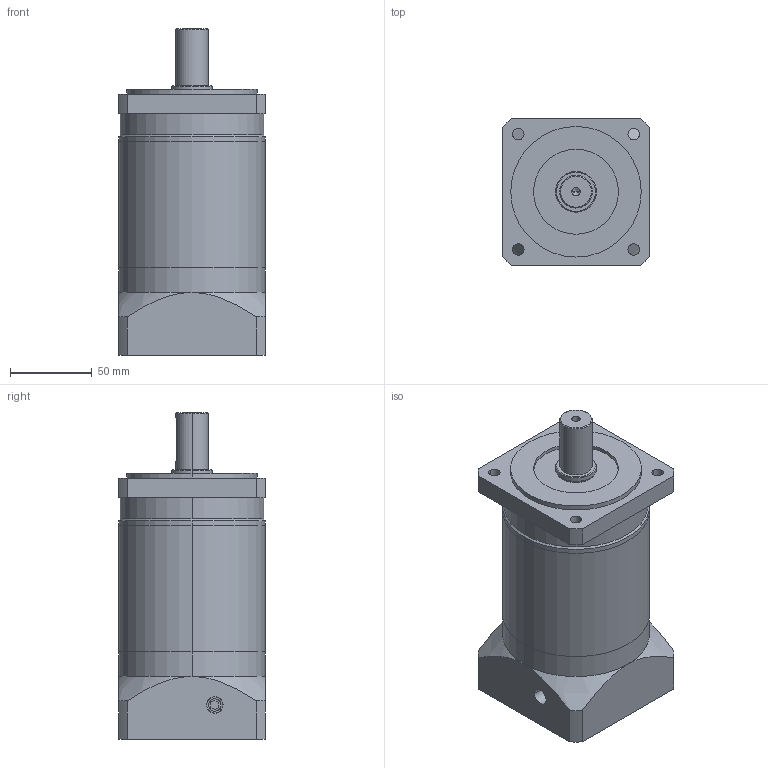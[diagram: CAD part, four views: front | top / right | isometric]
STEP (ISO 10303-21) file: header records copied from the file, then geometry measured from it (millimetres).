
FILE_DESCRIPTION(('FreeCAD Model'),'2;1');
FILE_NAME('Open CASCADE Shape Model','2023-02-16T09:42:37',('Author'),( ''),'Open CASCADE STEP processor 7.6','FreeCAD','Unknown');
FILE_SCHEMA(('AUTOMOTIVE_DESIGN { 1 0 10303 214 1 1 1 1 }'));
Length unit declared in the file: millimetre
Products named in the file (1): AE-090-L3-(19-35-70-3-4-6.5-90)-XJG
Bounding box: 90 x 90 x 200.1 mm (x, y, z)
Volume: 984453.3 mm3; surface area: 114644.5 mm2
Topology: 3 solids, 4 shells, 208 faces, 494 edges, 315 vertices
Faces by surface type: cylinder 98, plane 90, cone 20
Entity records: 14890 total; most frequent: CARTESIAN_POINT 4725, DIRECTION 1990, LINE 1023, VECTOR 1023, ORIENTED_EDGE 968, PCURVE 968, DEFINITIONAL_REPRESENTATION 968, EDGE_CURVE 484
